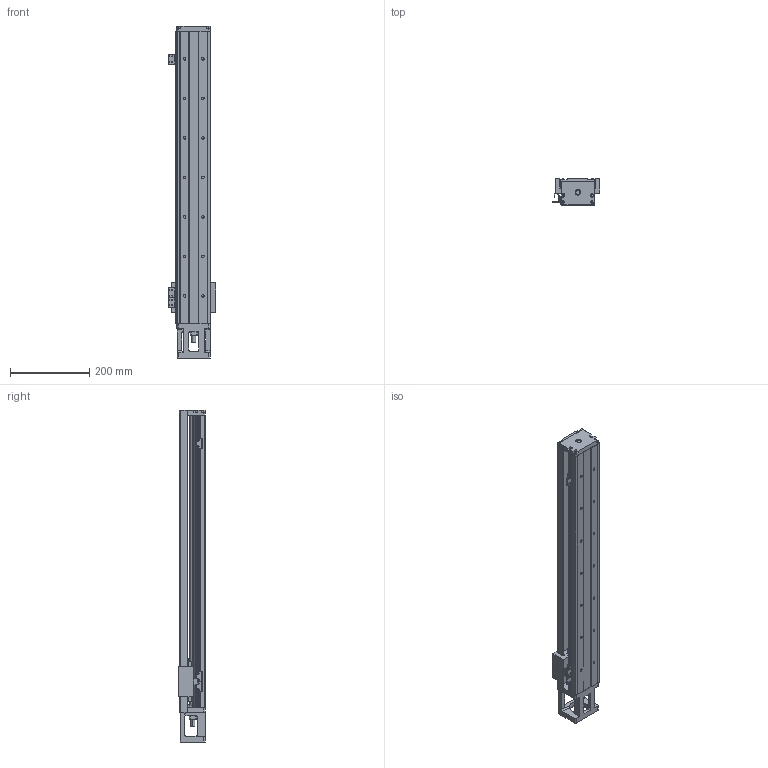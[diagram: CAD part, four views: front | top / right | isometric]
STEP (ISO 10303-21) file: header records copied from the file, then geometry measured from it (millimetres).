
FILE_DESCRIPTION (( 'STEP AP203' ), '1' );
FILE_NAME ('KH86D10C-740A1-F0CS0.STEP', '2023-12-28T09:59:01', ( '' ), ( '' ), 'SwSTEP 2.0', 'SolidWorks 2016', '' );
FILE_SCHEMA (( 'CONFIG_CONTROL_DESIGN' ));
Length unit declared in the file: millimetre
Products named in the file (35): KH86-04-05-02; 囀鞠褒す埴芛蹟隊M4℅10; KH86-綴釱_KK86-05-01; KK60-08-01; 鞠褒蹟譫M3; KK86-蛌諉釱; 86賑輸; 囀鞠褒す埴芛蹟隊M3℅4; KH86-A1; 囀鞠褒す埴芛蹟隊M3℅5; ヶ盓釱; KH86-01-740; KH86D10C-740A1-F0CS0
Assembly tree (23 placements, depth 3):
  KH86-04-05-02
  KK60-08-01
  鞠褒蹟譫M3
  KK60-08-01
  KK86-蛌諉釱
Bounding box: 121 x 68 x 840 mm (x, y, z)
Volume: 2094037.1 mm3; surface area: 576615.3 mm2
Topology: 25 solids, 26 shells, 1037 faces, 2626 edges, 1635 vertices
Faces by surface type: plane 388, cylinder 387, cone 226, bspline 36
Entity records: 27794 total; most frequent: CARTESIAN_POINT 5392, DIRECTION 4069, ORIENTED_EDGE 3926, EDGE_CURVE 1963, AXIS2_PLACEMENT_3D 1496, VERTEX_POINT 1286, VECTOR 1077, LINE 1077
